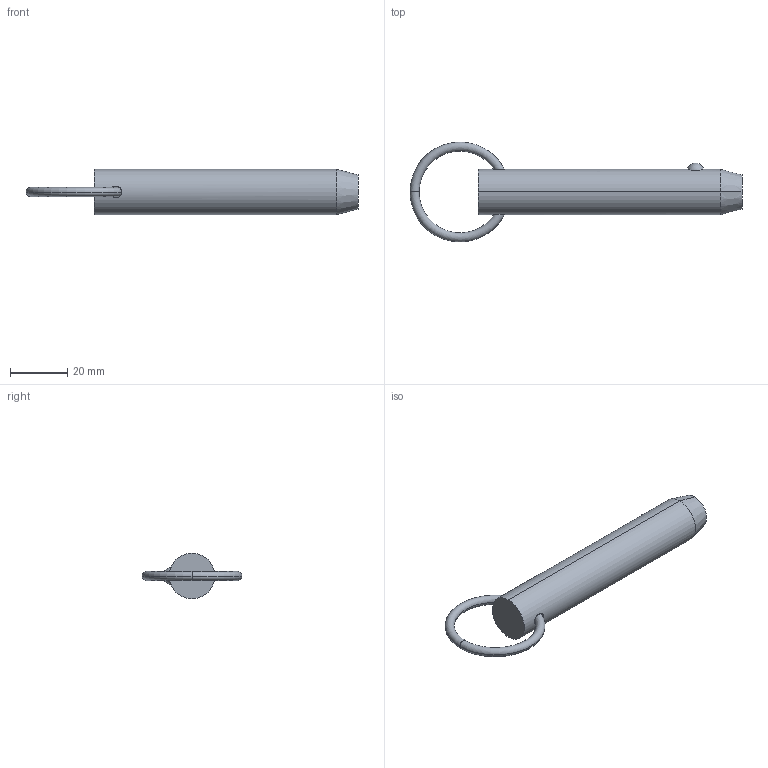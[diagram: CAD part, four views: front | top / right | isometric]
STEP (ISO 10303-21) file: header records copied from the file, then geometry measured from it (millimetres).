
FILE_DESCRIPTION (( 'STEP AP203' ), '1' );
FILE_NAME ('33010.W6225.step', '2024-11-01T10:41:42', ( '' ), ( '' ), 'SwSTEP 2.0', 'SolidWorks 2019', '' );
FILE_SCHEMA (( 'CONFIG_CONTROL_DESIGN' ));
Length unit declared in the file: millimetre
Products named in the file (3): Part2_33010.W6225; Part1_33010.W6225; 33010.W6225
Assembly tree (2 placements, depth 2):
  33010.W6225
    Part1_33010.W6225
    Part2_33010.W6225
Bounding box: 116.01 x 34.93 x 15.88 mm (x, y, z)
Volume: 18522.7 mm3; surface area: 6057.1 mm2
Topology: 2 solids, 2 shells, 16 faces, 31 edges, 18 vertices
Faces by surface type: torus 8, sphere 2, cone 2, cylinder 2, plane 2
Entity records: 889 total; most frequent: CARTESIAN_POINT 246, DIRECTION 88, ORIENTED_EDGE 62, AXIS2_PLACEMENT_3D 42, EDGE_CURVE 31, PERSON_AND_ORGANIZATION 26, CIRCLE 21, LOCAL_TIME 19
